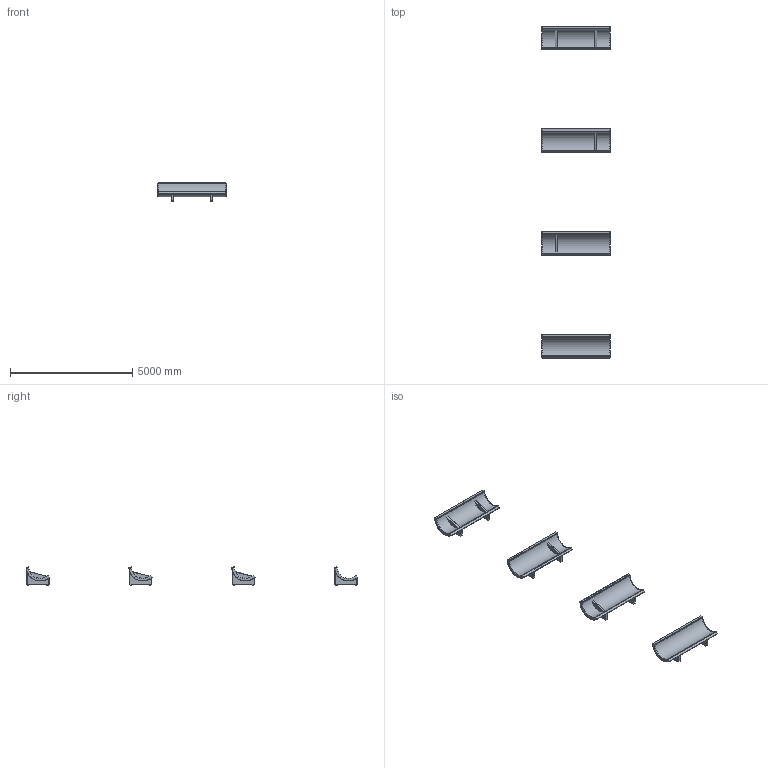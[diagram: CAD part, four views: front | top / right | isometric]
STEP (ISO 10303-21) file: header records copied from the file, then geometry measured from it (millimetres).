
FILE_DESCRIPTION(/* description */ (''),/* implementation_level */ '2;1');
FILE_NAME(/* name */ 'Poltrona PM_L280_Acerbis',/* time_stamp */ '2025-02-13T13:04:41+01:00',/* author */ (''),/* organization */ (''),/* preprocessor_version */ 'ST-DEVELOPER v19.2',/* originating_system */ 'Rhino 8.6',/* authorisation */ '');
FILE_SCHEMA (('AUTOMOTIVE_DESIGN'));
Length unit declared in the file: millimetre
Products named in the file (1): Document
Bounding box: 2800 x 13588.76 x 739.4 mm (x, y, z)
Volume: 1707060816.5 mm3; surface area: 46393315.4 mm2
Topology: 64 solids, 64 shells, 520 faces, 1056 edges, 668 vertices
Faces by surface type: plane 272, cylinder 192, bspline 56
Entity records: 17688 total; most frequent: CARTESIAN_POINT 8026, ORIENTED_EDGE 2112, DIRECTION 1276, EDGE_CURVE 1056, AXIS2_PLACEMENT_3D 870, VERTEX_POINT 668, B_SPLINE_CURVE_WITH_KNOTS 632, EDGE_LOOP 524
